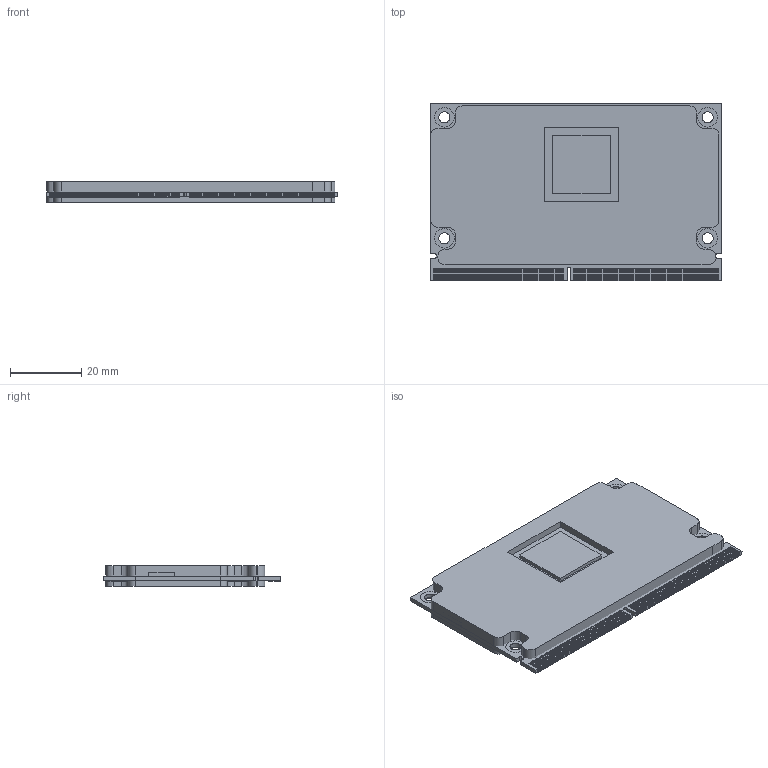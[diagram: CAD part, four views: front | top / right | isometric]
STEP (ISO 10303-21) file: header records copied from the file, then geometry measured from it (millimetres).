
FILE_DESCRIPTION(('CATIA V5 STEP'),'2;1');
FILE_NAME('\\NUFOTEC-SERVER\Projekt-Kunder\Embedded-Artists\Projekt-Cadfiler-Com+Carrier-Board\Cad-Data\Catia-V5-R19\iMX6Quad COM Board\160706-IMX6-Q-COM-BOARD-REV-A1-ASSY-INDUSTRIAL-NUFOTEC-2016-08-17.stp','2016-08-19T09:10:31+00:00',('none'),('none'),'CATIA Version 5 Release 19 GA (IN-10)','CATIA V5 STEP AP214','none');
FILE_SCHEMA(('AUTOMOTIVE_DESIGN { 1 0 10303 214 1 1 1 1 }'));
Products named in the file (1): 160706IMX6QCOMBOARDREVA1_PCB_AS_ASM_AllCATPart
Bounding box: 82 x 50 x 5.7 mm (x, y, z)
Surface area: 27222.1 mm2
Topology: 726 solids, 726 shells, 6660 faces, 15780 edges, 10574 vertices
Faces by surface type: plane 6383, cylinder 277
Entity records: 188821 total; most frequent: CARTESIAN_POINT 32535, ORIENTED_EDGE 31560, DIRECTION 27967, EDGE_CURVE 15780, VECTOR 15064, LINE 15064, VERTEX_POINT 10574, AXIS2_PLACEMENT_3D 6804
